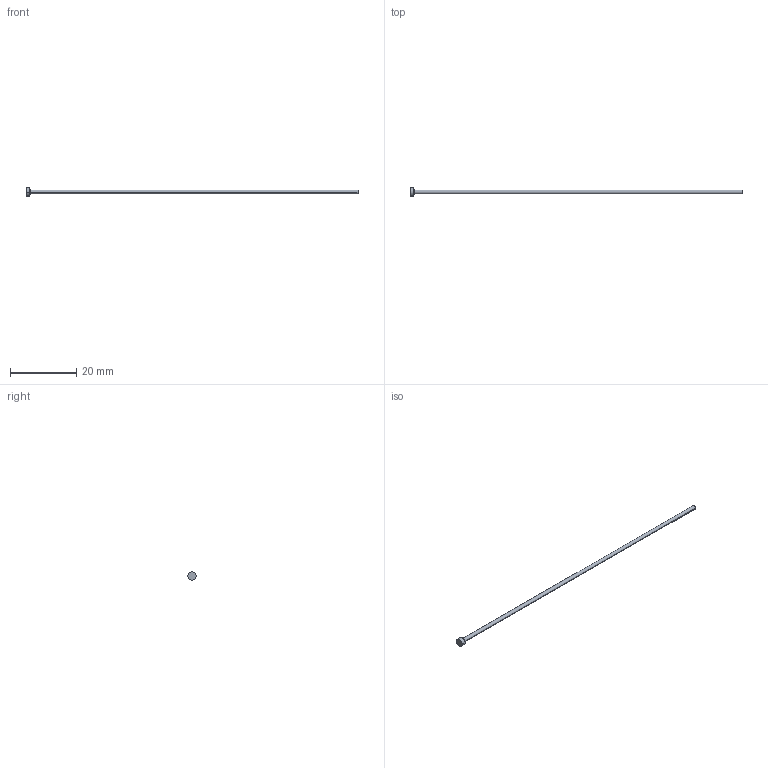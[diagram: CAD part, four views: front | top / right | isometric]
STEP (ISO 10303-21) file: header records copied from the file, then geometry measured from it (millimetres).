
FILE_DESCRIPTION (( 'STEP AP214' ), '1' );
FILE_NAME ('A-1,2x100.STEP', '2020-05-28T15:41:54', ( 'August' ), ( '' ), 'SwSTEP 2.0', 'SolidWorks 2018', '' );
FILE_SCHEMA (( 'AUTOMOTIVE_DESIGN' ));
Length unit declared in the file: millimetre
Products named in the file (1): A-1,2x100
Bounding box: 100 x 2.5 x 2.5 mm (x, y, z)
Volume: 117.7 mm3; surface area: 391.4 mm2
Topology: 1 solids, 1 shells, 9 faces, 16 edges, 10 vertices
Faces by surface type: cylinder 4, plane 3, torus 2
Entity records: 260 total; most frequent: DIRECTION 48, CARTESIAN_POINT 36, ORIENTED_EDGE 32, AXIS2_PLACEMENT_3D 22, EDGE_CURVE 16, CIRCLE 12, EDGE_LOOP 10, VERTEX_POINT 10
